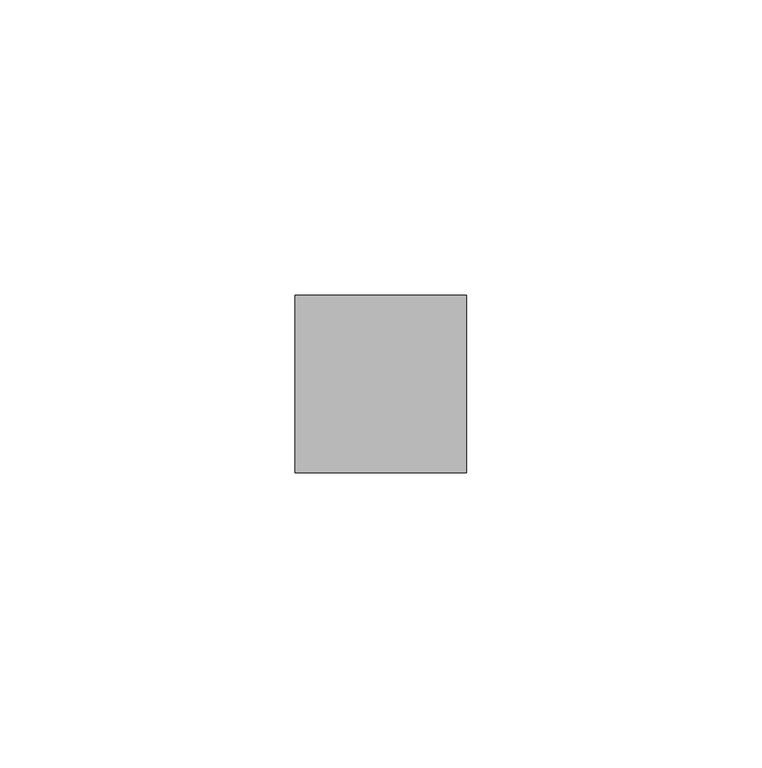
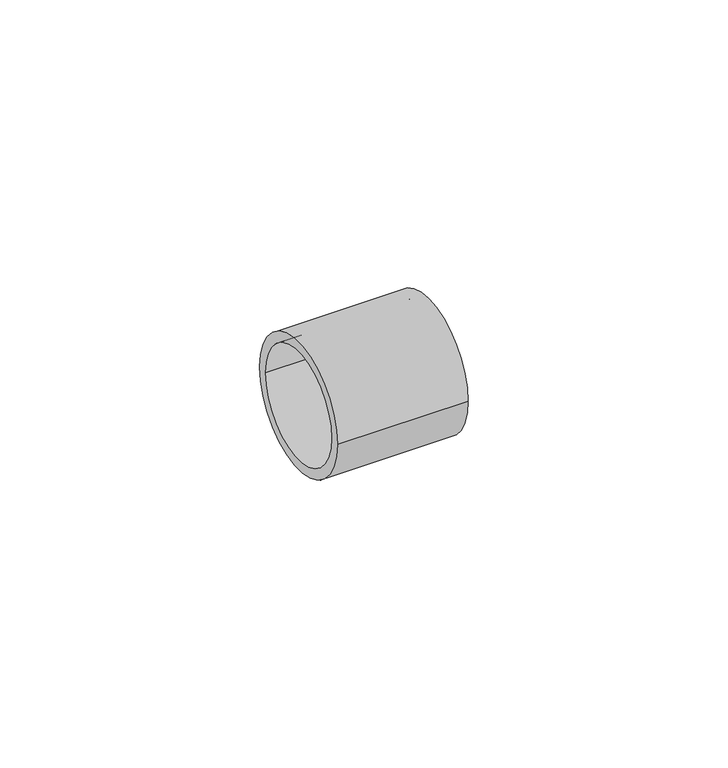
"""IFC4 building model written with IfcOpenShell, lengths in millimetres: pipe fitting geometry, RAUTITAN_Sleeve SDR 7,4 : RTI S SDR 7,4."""

from ifc_helpers import new_model, si_unit, point, frame, origin, origin_2d, place, context, project, spatial, circle_curve, trimmed, segment, composite_curve, outline, extrude, source, transform, mapped, element, save


def pipe_fitting_396ce9a4(model_context):
    return source(origin(), model_context, "Body", "SweptSolid", [
        extrude(outline(composite_curve([segment(trimmed(circle_curve(origin_2d(), 15.0), [point((-15.0, 0.0))], [point((15.0, 0.0))], False, "CARTESIAN"), True, "CONTINUOUS"), segment(trimmed(circle_curve(origin_2d(), 15.0), [point((15.0, 0.0))], [point((-15.0, 0.0))], False, "CARTESIAN"), True, "CONTINUOUS")], self_intersect=False), holes=[composite_curve([segment(trimmed(circle_curve(origin_2d(), 12.7), [point((-12.7, 0.0))], [point((12.7, 0.0))], True, "CARTESIAN"), True, "CONTINUOUS"), segment(trimmed(circle_curve(origin_2d(), 12.7), [point((12.7, 0.0))], [point((-12.7, 0.0))], True, "CARTESIAN"), True, "CONTINUOUS")], self_intersect=False)]), frame((0.0, 0.0, 0.0), z_axis=(1.0, 0.0, 0.0), x_axis=(0.0, 1.0, 0.0)), (0.0, 0.0, 1.0), 29.0),
    ])


if __name__ == "__main__":
    model = new_model("IFC4")
    model_context = context("Model", 3, world=origin())
    ifc_project = project(units=[si_unit("LENGTHUNIT", "METRE", prefix="MILLI")], contexts=[model_context])
    site = spatial("IfcSite", under=ifc_project)
    building = spatial("IfcBuilding", under=site)
    placement = place(None, origin())
    pipe_fitting_shape = pipe_fitting_396ce9a4(model_context)
    element("IfcPipeFitting", 1, ObjectType="RAUTITAN_Sleeve SDR 7,4 : RTI S SDR 7,4", at=placement, inside=building, context=model_context, shape_type="MappedRepresentation", body=[
        mapped(pipe_fitting_shape, transform((0.0, 0.0, 0.0), x_axis=(1.0, 0.0, 0.0), y_axis=(0.0, 1.0, 0.0), z_axis=(0.0, 0.0, 1.0))),
    ])
    save(model, "model.ifc")
